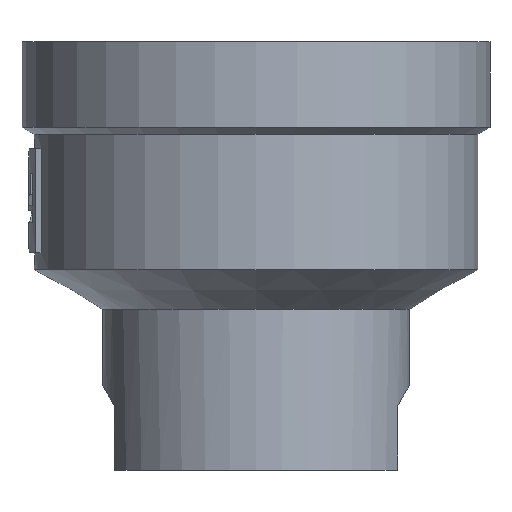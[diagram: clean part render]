
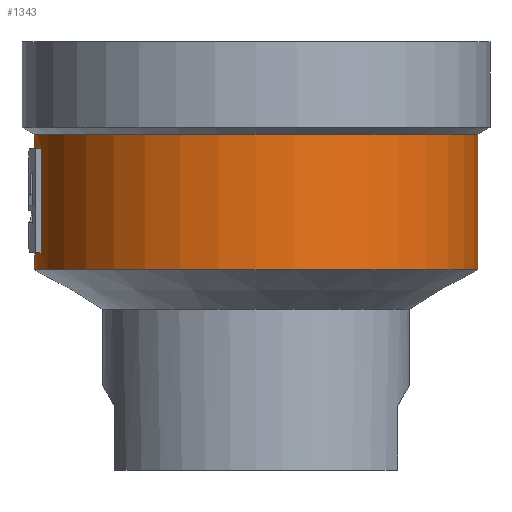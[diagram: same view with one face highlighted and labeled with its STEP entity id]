
A CAD part, front view. The second image highlights one B-rep face of the part: STEP entity #1343.
In plain terms, the highlighted cylindrical face has radius 19.147 mm (diameter 38.294 mm), a full revolution.
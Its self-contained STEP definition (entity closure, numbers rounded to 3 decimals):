
#110=FACE_BOUND('',#319,.T.);
#145=CIRCLE('',#1462,19.147);
#146=CIRCLE('',#1465,19.147);
#147=CIRCLE('',#1468,19.147);
#148=CIRCLE('',#1469,19.147);
#149=CIRCLE('',#1470,19.147);
#150=CIRCLE('',#1471,19.147);
#185=CYLINDRICAL_SURFACE('',#1467,19.147);
#239=FACE_OUTER_BOUND('',#318,.T.);
#318=EDGE_LOOP('',(#1005,#1006,#1007,#1008,#1009,#1010));
#319=EDGE_LOOP('',(#1011,#1012,#1013,#1014));
#417=LINE('',#2205,#488);
#419=LINE('',#2211,#490);
#420=LINE('',#2218,#491);
#488=VECTOR('',#1684,10.);
#490=VECTOR('',#1692,10.);
#491=VECTOR('',#1699,19.147);
#572=VERTEX_POINT('',#2197);
#573=VERTEX_POINT('',#2199);
#574=VERTEX_POINT('',#2203);
#575=VERTEX_POINT('',#2207);
#576=VERTEX_POINT('',#2213);
#577=VERTEX_POINT('',#2214);
#578=VERTEX_POINT('',#2217);
#579=VERTEX_POINT('',#2219);
#737=EDGE_CURVE('',#573,#572,#145,.T.);
#740=EDGE_CURVE('',#572,#574,#417,.T.);
#742=EDGE_CURVE('',#574,#575,#146,.T.);
#743=EDGE_CURVE('',#575,#573,#419,.T.);
#744=EDGE_CURVE('',#576,#577,#147,.T.);
#745=EDGE_CURVE('',#577,#576,#148,.T.);
#746=EDGE_CURVE('',#577,#578,#420,.T.);
#747=EDGE_CURVE('',#578,#579,#149,.T.);
#748=EDGE_CURVE('',#579,#578,#150,.T.);
#1005=ORIENTED_EDGE('',*,*,#744,.F.);
#1006=ORIENTED_EDGE('',*,*,#745,.F.);
#1007=ORIENTED_EDGE('',*,*,#746,.T.);
#1008=ORIENTED_EDGE('',*,*,#747,.T.);
#1009=ORIENTED_EDGE('',*,*,#748,.T.);
#1010=ORIENTED_EDGE('',*,*,#746,.F.);
#1011=ORIENTED_EDGE('',*,*,#737,.T.);
#1012=ORIENTED_EDGE('',*,*,#740,.T.);
#1013=ORIENTED_EDGE('',*,*,#742,.T.);
#1014=ORIENTED_EDGE('',*,*,#743,.T.);
#1343=ADVANCED_FACE('',(#239,#110),#185,.T.);
#1462=AXIS2_PLACEMENT_3D('',#2200,#1678,#1679);
#1465=AXIS2_PLACEMENT_3D('',#2209,#1688,#1689);
#1467=AXIS2_PLACEMENT_3D('',#2212,#1693,#1694);
#1468=AXIS2_PLACEMENT_3D('',#2215,#1695,#1696);
#1469=AXIS2_PLACEMENT_3D('',#2216,#1697,#1698);
#1470=AXIS2_PLACEMENT_3D('',#2220,#1700,#1701);
#1471=AXIS2_PLACEMENT_3D('',#2221,#1702,#1703);
#1678=DIRECTION('center_axis',(0.,0.,1.));
#1679=DIRECTION('ref_axis',(0.,-1.,0.));
#1684=DIRECTION('',(0.,0.,-1.));
#1688=DIRECTION('center_axis',(0.,0.,-1.));
#1689=DIRECTION('ref_axis',(0.,-1.,0.));
#1692=DIRECTION('',(0.,0.,1.));
#1693=DIRECTION('center_axis',(0.,0.,1.));
#1694=DIRECTION('ref_axis',(0.,-1.,0.));
#1695=DIRECTION('center_axis',(0.,0.,1.));
#1696=DIRECTION('ref_axis',(1.,0.,0.));
#1697=DIRECTION('center_axis',(0.,0.,1.));
#1698=DIRECTION('ref_axis',(1.,0.,0.));
#1699=DIRECTION('',(0.,0.,-1.));
#1700=DIRECTION('center_axis',(0.,0.,1.));
#1701=DIRECTION('ref_axis',(1.,0.,0.));
#1702=DIRECTION('center_axis',(0.,0.,1.));
#1703=DIRECTION('ref_axis',(1.,0.,0.));
#2197=CARTESIAN_POINT('',(-18.564,-4.606,29.8));
#2199=CARTESIAN_POINT('',(-18.656,4.394,29.8));
#2200=CARTESIAN_POINT('Origin',(0.,0.085,29.8));
#2203=CARTESIAN_POINT('',(-18.564,-4.606,20.8));
#2205=CARTESIAN_POINT('',(-18.564,-4.606,25.182));
#2207=CARTESIAN_POINT('',(-18.656,4.394,20.8));
#2209=CARTESIAN_POINT('Origin',(0.,0.085,20.8));
#2211=CARTESIAN_POINT('',(-18.656,4.394,25.182));
#2212=CARTESIAN_POINT('Origin',(0.,0.085,25.182));
#2213=CARTESIAN_POINT('',(0.,-19.062,31.032));
#2214=CARTESIAN_POINT('',(0.,19.232,31.032));
#2215=CARTESIAN_POINT('Origin',(0.,0.085,31.032));
#2216=CARTESIAN_POINT('Origin',(0.,0.085,31.032));
#2217=CARTESIAN_POINT('',(0.,19.232,19.332));
#2218=CARTESIAN_POINT('',(0.,19.232,25.182));
#2219=CARTESIAN_POINT('',(0.,-19.062,19.332));
#2220=CARTESIAN_POINT('Origin',(0.,0.085,19.332));
#2221=CARTESIAN_POINT('Origin',(0.,0.085,19.332));
